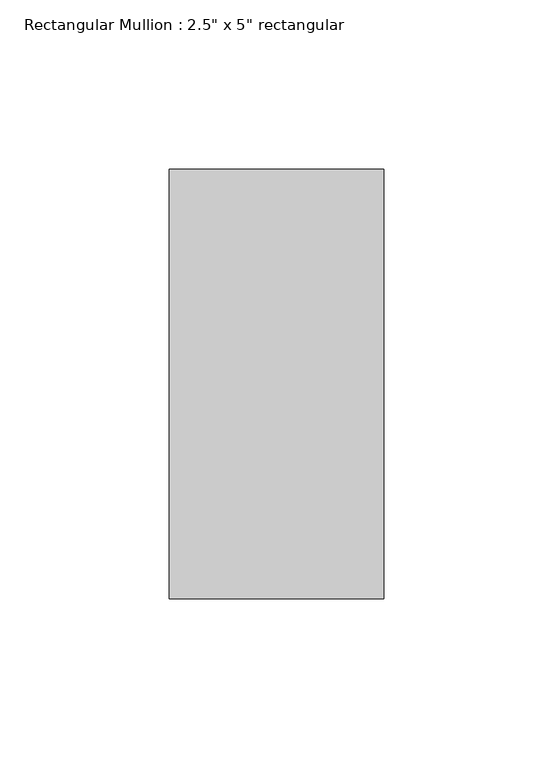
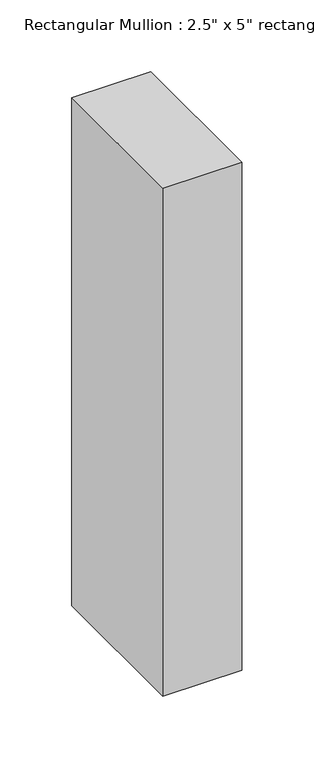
"""IFC4 building model written with IfcOpenShell, lengths in millimetres: member geometry."""

import ifcopenshell
import ifcopenshell.guid

model = None  # the IFC model being written
_history = None  # IfcOwnerHistory: only IFC2X3 demands one
_inside = {}  # id of a spatial element -> (the spatial element, [elements in it])
_under = {}  # id of a project, library or spatial element -> (it, [spatial elements below it])
_declared = {}  # id of a project -> (the project, [libraries it declares])
_typed = {}  # id of a type object -> (the type object, [elements of that type])
_made_of = {}  # id of a material, layer set ... -> (it, [elements and type objects made of it])


def new_model(schema):
    """Start an empty IFC model of exactly this schema.

    Asked for "IFC4X3", IfcOpenShell would pick the latest addendum, in which some entities
    have other attributes; the version numbers below select the first issue.
    IFC2X3 requires an IfcOwnerHistory on every rooted entity: one is made here for all.
    """
    global model, _history
    if schema == "IFC4X3":
        model = ifcopenshell.file(schema_version=(4, 3, 0, 0))
    else:
        model = ifcopenshell.file(schema=schema)
    _inside.clear()
    _under.clear()
    _declared.clear()
    _typed.clear()
    _made_of.clear()
    _history = None
    if model.schema == "IFC2X3":
        org = make("IfcOrganization", Name="unknown")
        user = make(
            "IfcPersonAndOrganization",
            ThePerson=make("IfcPerson", FamilyName="unknown"),
            TheOrganization=org,
        )
        app = make(
            "IfcApplication",
            ApplicationDeveloper=org,
            Version="unknown",
            ApplicationFullName="unknown",
            ApplicationIdentifier="unknown",
        )
        _history = make(
            "IfcOwnerHistory",
            OwningUser=user,
            OwningApplication=app,
            ChangeAction="ADDED",
            CreationDate=0,
        )
    return model


def make(cls, **values):
    """One entity of the class cls with the attributes given. An attribute that is None is left unset."""
    return model.create_entity(
        cls, **{name: value for name, value in values.items() if value is not None}
    )


def rooted(cls, **values):
    """An entity with a GlobalId (a new one), such as an element, a storey or a relation."""
    return make(cls, GlobalId=ifcopenshell.guid.new(), OwnerHistory=_history, **values)


def si_unit(unit_type, name, prefix=None):
    """IfcSIUnit, for example si_unit("LENGTHUNIT", "METRE", prefix="MILLI")."""
    return make("IfcSIUnit", UnitType=unit_type, Prefix=prefix, Name=name)


def assignment(units):
    """IfcUnitAssignment: the units of a project."""
    return None if units is None else make("IfcUnitAssignment", Units=units)


def point(xyz):
    """IfcCartesianPoint."""
    return None if xyz is None else make("IfcCartesianPoint", Coordinates=xyz)


def direction(xyz):
    """IfcDirection."""
    return None if xyz is None else make("IfcDirection", DirectionRatios=xyz)


def frame(location, z_axis=None, x_axis=None):
    """IfcAxis2Placement3D, a coordinate frame: its origin and axes. An axis left out is left unset."""
    return make(
        "IfcAxis2Placement3D",
        Location=point(location),
        Axis=direction(z_axis),
        RefDirection=direction(x_axis),
    )


def origin():
    """The frame at (0, 0, 0) with its axes left unset."""
    return frame((0.0, 0.0, 0.0))


def place(relative_to, where):
    """IfcLocalPlacement: puts the frame where relative to a parent placement (None: the world)."""
    return make(
        "IfcLocalPlacement", PlacementRelTo=relative_to, RelativePlacement=where
    )


def context(
    kind, dimensions, precision=None, world=None, true_north=None, identifier=None
):
    """IfcGeometricRepresentationContext, for example the 3D "Model" context."""
    return make(
        "IfcGeometricRepresentationContext",
        ContextIdentifier=identifier,
        ContextType=kind,
        CoordinateSpaceDimension=dimensions,
        Precision=precision,
        WorldCoordinateSystem=world,
        TrueNorth=true_north,
    )


def project(units=None, contexts=None):
    """IfcProject with its units and contexts."""
    return rooted(
        "IfcProject",
        Name="project",
        RepresentationContexts=contexts,
        UnitsInContext=assignment(units),
    )


def spatial(cls, under=None, at=None, **own):
    """A site, building, storey or space (cls), placed at a placement, below another one or the project."""
    s = rooted(cls, ObjectPlacement=at, **own)
    if under is not None:
        _under.setdefault(under.id(), (under, []))[1].append(s)
    return s


def polyline(points):
    """IfcPolyline through the points."""
    return make("IfcPolyline", Points=[point(p) for p in points])


def outline(outer, holes=None, kind="AREA"):
    """IfcArbitraryClosedProfileDef: a profile drawn as a closed curve; with holes, ...WithVoids."""
    if holes is None:
        return make("IfcArbitraryClosedProfileDef", ProfileType=kind, OuterCurve=outer)
    return make(
        "IfcArbitraryProfileDefWithVoids",
        ProfileType=kind,
        OuterCurve=outer,
        InnerCurves=holes,
    )


def extrude(swept, where, along, depth):
    """IfcExtrudedAreaSolid: the profile swept, set in the frame where, extruded along a direction by depth."""
    return make(
        "IfcExtrudedAreaSolid",
        SweptArea=swept,
        Position=where,
        ExtrudedDirection=direction(along),
        Depth=depth,
    )


def shape(context_of_items, identifier, shape_type, items):
    """IfcShapeRepresentation: the items that make up one representation, for example the "Body"."""
    return make(
        "IfcShapeRepresentation",
        ContextOfItems=context_of_items,
        RepresentationIdentifier=identifier,
        RepresentationType=shape_type,
        Items=items,
    )


def source(mapping_origin, context_of_items, identifier, shape_type, items):
    """IfcRepresentationMap: a shape defined once, which mapped items show again and again."""
    return make(
        "IfcRepresentationMap",
        MappingOrigin=mapping_origin,
        MappedRepresentation=shape(context_of_items, identifier, shape_type, items),
    )


def transform(
    local_origin,
    x_axis=None,
    y_axis=None,
    z_axis=None,
    scale=None,
    scale2=None,
    scale3=None,
    uniform=True,
):
    """IfcCartesianTransformationOperator3D, or its non-uniform kind. x_axis, y_axis, z_axis: its Axis1, 2, 3."""
    if uniform:
        return make(
            "IfcCartesianTransformationOperator3D",
            Axis1=direction(x_axis),
            Axis2=direction(y_axis),
            LocalOrigin=point(local_origin),
            Scale=scale,
            Axis3=direction(z_axis),
        )
    return make(
        "IfcCartesianTransformationOperator3DnonUniform",
        Axis1=direction(x_axis),
        Axis2=direction(y_axis),
        LocalOrigin=point(local_origin),
        Scale=scale,
        Axis3=direction(z_axis),
        Scale2=scale2,
        Scale3=scale3,
    )


def mapped(mapping_source, mapping_target):
    """IfcMappedItem: shows the shape of a source again, moved by a transform."""
    return make(
        "IfcMappedItem", MappingSource=mapping_source, MappingTarget=mapping_target
    )


def made_of(thing, what):
    """Note that an element or type object is made of a material, layer set ...; save() writes the relation."""
    if what is not None:
        _made_of.setdefault(what.id(), (what, []))[1].append(thing)
    return thing


def element(
    cls,
    number,
    at=None,
    inside=None,
    cuts=None,
    type_object=None,
    material=None,
    context=None,
    identifier="Body",
    shape_type=None,
    held_by="IfcProductDefinitionShape",
    body=None,
    shapes=None,
    **own,
):
    """One element of the class cls, such as IfcWall. Its Tag is "e" and its number.

    at: its placement. inside: the storey or other place that contains it. cuts: it is an
    opening in that element (IfcRelVoidsElement). A single representation is given by context,
    identifier, shape_type and body (its items); several are given by shapes. held_by: the class
    of the entity that holds the representations. save() writes the other relations.
    """
    e = rooted(cls, Tag="e%d" % number, ObjectPlacement=at, **own)
    if body is not None:
        shapes = [shape(context, identifier, shape_type, body)]
    if shapes is not None:
        e.Representation = make(held_by, Representations=shapes)
    if inside is not None:
        _inside.setdefault(inside.id(), (inside, []))[1].append(e)
    if cuts is not None:
        rooted(
            "IfcRelVoidsElement", RelatingBuildingElement=cuts, RelatedOpeningElement=e
        )
    if type_object is not None:
        _typed.setdefault(type_object.id(), (type_object, []))[1].append(e)
    return made_of(e, material)


def aggregate(whole, parts):
    """IfcRelAggregates: a whole, such as a stair, and the parts it consists of."""
    return rooted("IfcRelAggregates", RelatingObject=whole, RelatedObjects=parts)


def save(model, path):
    """Write the relations noted so far, then the file.

    IfcRelAggregates (storeys below a building ...), IfcRelContainedInSpatialStructure (elements
    in a storey), IfcRelDefinesByType, IfcRelAssociatesMaterial and IfcRelDeclares: one each for
    every whole, place, type object, material and project.
    """
    for whole, parts in _under.values():
        aggregate(whole, parts)
    for where, things in _inside.values():
        rooted(
            "IfcRelContainedInSpatialStructure",
            RelatedElements=things,
            RelatingStructure=where,
        )
    for kind, things in _typed.values():
        rooted("IfcRelDefinesByType", RelatedObjects=things, RelatingType=kind)
    for what, things in _made_of.values():
        rooted("IfcRelAssociatesMaterial", RelatedObjects=things, RelatingMaterial=what)
    for by, libraries in _declared.values():
        rooted("IfcRelDeclares", RelatingContext=by, RelatedDefinitions=libraries)
    model.write(path)


def member_69a911c1(model_context):
    return source(origin(), model_context, "Body", "SweptSolid", [
        extrude(outline(polyline([(0.0, 63.5), (0.0, -63.5), (-63.5, -63.5), (-63.5, 63.5), (0.0, 63.5)])), frame((0.0, 0.0, -431.8), z_axis=(0.0, 0.0, 1.0), x_axis=(1.0, 0.0, 0.0)), (0.0, 0.0, 1.0), 431.8),
    ])


if __name__ == "__main__":
    model = new_model("IFC4")
    model_context = context("Model", 3, world=origin())
    ifc_project = project(units=[si_unit("LENGTHUNIT", "METRE", prefix="MILLI")], contexts=[model_context])
    site = spatial("IfcSite", under=ifc_project)
    building = spatial("IfcBuilding", under=site)
    placement = place(None, origin())
    member_shape = member_69a911c1(model_context)
    element("IfcMember", 1, ObjectType="Rectangular Mullion : 2.5\" x 5\" rectangular", at=placement, inside=building, context=model_context, shape_type="MappedRepresentation", body=[
        mapped(member_shape, transform((0.0, 0.0, 0.0), x_axis=(1.0, 0.0, 0.0), y_axis=(0.0, 1.0, 0.0), z_axis=(0.0, 0.0, 1.0))),
    ])
    save(model, "model.ifc")
